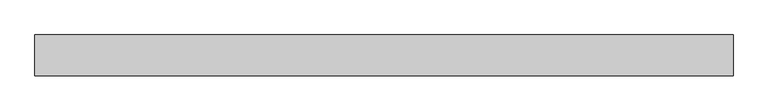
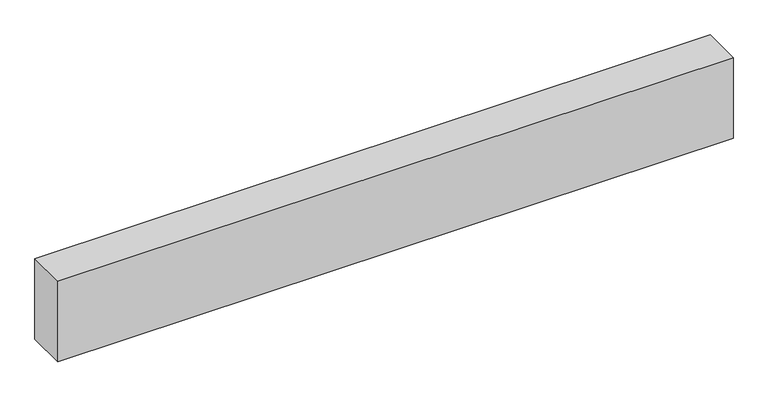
"""IFC4 building model written with IfcOpenShell, lengths in millimetres: proxy geometry."""

from ifc_helpers import new_model, si_unit, frame, origin, place, context, project, spatial, polyline, outline, extrude, source, transform, mapped, element, save


def structural_framing_643f2bae(model_context):
    return source(origin(), model_context, "Body", "SweptSolid", [
        extrude(outline(polyline([(-1189.8, -70.0), (-1189.8, 70.0), (1189.8, 70.0), (1189.8, -70.0), (-1189.8, -70.0)])), frame((0.0, 0.0, -300.0), z_axis=(0.0, 0.0, 1.0), x_axis=(1.0, 0.0, 0.0)), (0.0, 0.0, 1.0), 300.0),
    ])


if __name__ == "__main__":
    model = new_model("IFC4")
    model_context = context("Model", 3, world=origin())
    ifc_project = project(units=[si_unit("LENGTHUNIT", "METRE", prefix="MILLI")], contexts=[model_context])
    site = spatial("IfcSite", under=ifc_project)
    building = spatial("IfcBuilding", under=site)
    placement = place(None, origin())
    structural_framing_shape = structural_framing_643f2bae(model_context)
    element("IfcBuildingElementProxy", 1, Name="Structural Framing", at=placement, inside=building, context=model_context, shape_type="MappedRepresentation", body=[
        mapped(structural_framing_shape, transform((0.0, 0.0, 0.0), x_axis=(1.0, 0.0, 0.0), y_axis=(0.0, 1.0, 0.0), z_axis=(0.0, 0.0, 1.0))),
    ])
    save(model, "model.ifc")
